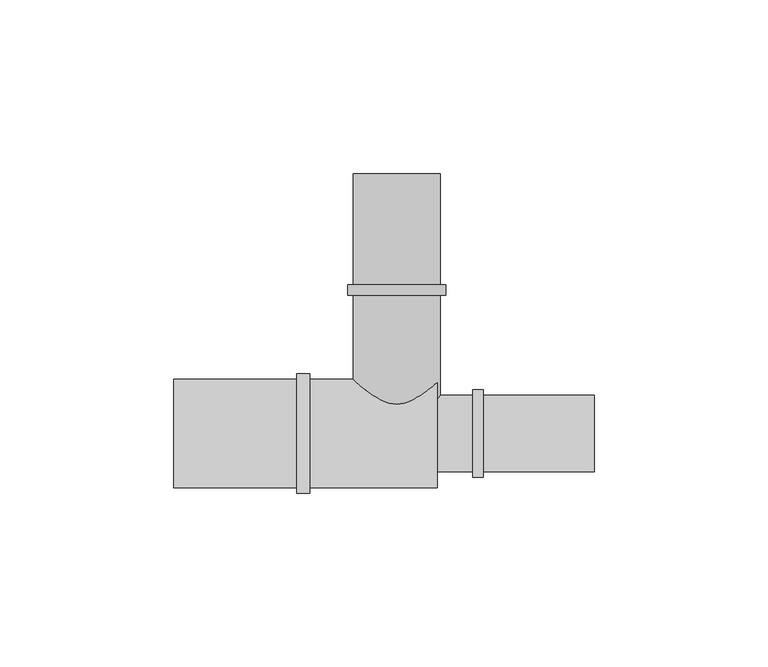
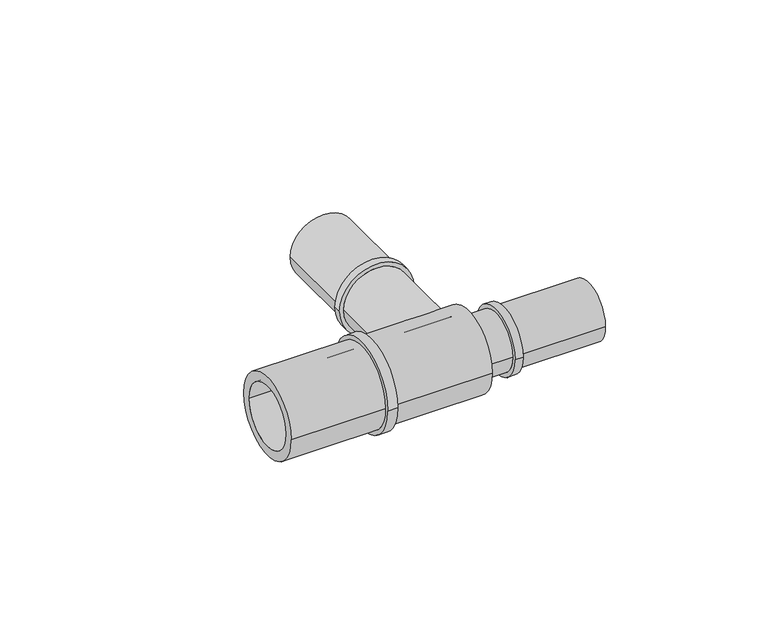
"""IFC4 building model written with IfcOpenShell, lengths in millimetres: pipe fitting geometry, FASTLOC_T-piece_LX : FSL T-Piece LX PL."""

from ifc_helpers import new_model, si_unit, frame, origin, place, context, project, spatial, polyline, circle_curve, source, transform, mapped, element, save
from ifc_brep_helpers import plane_surface, cylinder_surface, revolved_surface, advanced_brep


def pipe_fitting_08f3d266(model_context):
    return source(origin(), model_context, "Body", "AdvancedBrep", [
        advanced_brep(
        [(9.85, 74.8, 0.0), (-9.85, 74.8, 0.0), (-9.85, 0.0, 0.0), (9.85, 0.0, 0.0), (12.5, 0.0, 0.0), (-12.5, 0.0, 0.0), (-12.5, 39.8, 0.0), (12.5, 39.8, 0.0), (14.1, 39.8, 0.0), (-14.1, 39.8, 0.0), (-14.1, 42.8, 0.0), (14.1, 42.8, 0.0), (12.5, 42.8, 0.0), (-12.5, 42.8, 0.0), (-12.5, 74.8, 0.0), (12.5, 74.8, 0.0)],
        [
            (0, 1, circle_curve(frame((0.0, 74.8, 0.0), z_axis=(0.0, 1.0, 0.0), x_axis=(-1.0, 0.0, 0.0)), 9.85)),
            (1, 2),
            (2, 3, circle_curve(frame((0.0, 0.0, 0.0), z_axis=(0.0, -1.0, 0.0), x_axis=(-1.0, 0.0, 0.0)), 9.85)),
            (3, 0),
            (4, 5, circle_curve(frame((0.0, 0.0, 0.0), z_axis=(0.0, 1.0, 0.0), x_axis=(-1.0, 0.0, 0.0)), 12.5)),
            (5, 6),
            (6, 7, circle_curve(frame((0.0, 39.8, 0.0), z_axis=(0.0, -1.0, 0.0), x_axis=(-1.0, 0.0, 0.0)), 12.5)),
            (7, 4),
            (8, 9, circle_curve(frame((0.0, 39.8, 0.0), z_axis=(0.0, 1.0, 0.0), x_axis=(-1.0, 0.0, 0.0)), 14.1)),
            (9, 10),
            (10, 11, circle_curve(frame((0.0, 42.8, 0.0), z_axis=(0.0, -1.0, 0.0), x_axis=(-1.0, 0.0, 0.0)), 14.1)),
            (11, 8),
            (12, 13, circle_curve(frame((0.0, 42.8, 0.0), z_axis=(0.0, 1.0, 0.0), x_axis=(-1.0, 0.0, 0.0)), 12.5)),
            (13, 14),
            (14, 15, circle_curve(frame((0.0, 74.8, 0.0), z_axis=(0.0, -1.0, 0.0), x_axis=(-1.0, 0.0, 0.0)), 12.5)),
            (15, 12),
            (1, 0, circle_curve(frame((0.0, 74.8, 0.0), z_axis=(0.0, 1.0, 0.0), x_axis=(1.0, 0.0, 0.0)), 9.85)),
            (3, 2, circle_curve(frame((0.0, 0.0, 0.0), z_axis=(0.0, -1.0, 0.0), x_axis=(1.0, 0.0, 0.0)), 9.85)),
            (4, 5, circle_curve(frame((0.0, 0.0, 0.0), z_axis=(0.0, -1.0, 0.0), x_axis=(1.0, 0.0, 0.0)), 12.5)),
            (7, 6, circle_curve(frame((0.0, 39.8, 0.0), z_axis=(0.0, -1.0, 0.0), x_axis=(1.0, 0.0, 0.0)), 12.5)),
            (8, 9, circle_curve(frame((0.0, 39.8, 0.0), z_axis=(0.0, -1.0, 0.0), x_axis=(1.0, 0.0, 0.0)), 14.1)),
            (11, 10, circle_curve(frame((0.0, 42.8, 0.0), z_axis=(0.0, -1.0, 0.0), x_axis=(1.0, 0.0, 0.0)), 14.1)),
            (12, 13, circle_curve(frame((0.0, 42.8, 0.0), z_axis=(0.0, -1.0, 0.0), x_axis=(1.0, 0.0, 0.0)), 12.5)),
            (15, 14, circle_curve(frame((0.0, 74.8, 0.0), z_axis=(0.0, -1.0, 0.0), x_axis=(1.0, 0.0, 0.0)), 12.5)),
        ],
        [
            revolved_surface(polyline([(-9.85, 0.0, 0.0), (-9.85, 74.8, 0.0)]), (0.0, 0.0, 0.0), (0.0, -1.0, 0.0)),
            cylinder_surface(frame((0.0, 0.0, 0.0), z_axis=(0.0, -1.0, 0.0), x_axis=(-1.0, 0.0, 0.0)), 12.5),
            cylinder_surface(frame((0.0, 0.0, 0.0), z_axis=(0.0, -1.0, 0.0), x_axis=(-1.0, 0.0, 0.0)), 14.1),
            revolved_surface(polyline([(9.85, 0.0, 0.0), (9.85, 74.8, 0.0)]), (0.0, 0.0, 0.0), (0.0, -1.0, 0.0)),
            plane_surface(frame((0.0, 0.0, 0.0), z_axis=(0.0, -1.0, 0.0), x_axis=(1.0, 0.0, 0.0))),
            cylinder_surface(frame((0.0, 0.0, 0.0), z_axis=(0.0, -1.0, 0.0), x_axis=(1.0, 0.0, 0.0)), 12.5),
            plane_surface(frame((0.0, 39.8, 0.0), z_axis=(0.0, -1.0, 0.0), x_axis=(1.0, 0.0, 0.0))),
            cylinder_surface(frame((0.0, 0.0, 0.0), z_axis=(0.0, -1.0, 0.0), x_axis=(1.0, 0.0, 0.0)), 14.1),
            plane_surface(frame((0.0, 42.8, 0.0), z_axis=(0.0, 1.0, 0.0), x_axis=(1.0, 0.0, 0.0))),
            plane_surface(frame((0.0, 74.8, 0.0), z_axis=(0.0, 1.0, 0.0), x_axis=(1.0, 0.0, 0.0))),
        ],
        [
            (0, [[1, 2, 3, 4]]),
            (1, [[5, 6, 7, 8]]),
            (2, [[9, 10, 11, 12]]),
            (1, [[13, 14, 15, 16]]),
            (3, [[17, -4, 18, -2]]),
            (4, [[19, -5], [-18, -3]]),
            (5, [[-19, -8, 20, -6]]),
            (6, [[21, -9], [-20, -7]]),
            (7, [[-21, -12, 22, -10]]),
            (8, [[-22, -11], [23, -13]]),
            (5, [[-23, -16, 24, -14]]),
            (9, [[-24, -15], [-17, -1]]),
        ],
    ),
        advanced_brep(
        [(21.9, 11.0, 0.0), (21.9, -11.0, 0.0), (11.65, -11.0, 0.0), (11.65, 11.0, 0.0), (24.9, 12.6, 0.0), (24.9, -12.6, 0.0), (21.9, -12.6, 0.0), (21.9, 12.6, 0.0), (56.9, 11.0, 0.0), (56.9, -11.0, 0.0), (24.9, -11.0, 0.0), (24.9, 11.0, 0.0), (9.0, 8.35, 0.0), (9.0, -8.35, 0.0), (56.9, -8.35, 0.0), (56.9, 8.35, 0.0), (-64.2, 11.95, 0.0), (-64.2, -11.95, 0.0), (9.0, -11.95, 0.0), (9.0, 11.95, 0.0), (-28.7, 15.55, 0.0), (-28.7, -15.55, 0.0), (-64.2, -15.55, 0.0), (-64.2, 15.55, 0.0), (-25.0, 17.2, 0.0), (-25.0, -17.2, 0.0), (-28.7, -17.2, 0.0), (-28.7, 17.2, 0.0), (11.65, 15.55, 0.0), (11.65, -15.55, 0.0), (-25.0, -15.55, 0.0), (-25.0, 15.55, 0.0)],
        [
            (0, 1, circle_curve(frame((21.9, 0.0, 0.0), z_axis=(-1.0, 0.0, 0.0), x_axis=(0.0, -1.0, 0.0)), 11.0)),
            (1, 2),
            (2, 3, circle_curve(frame((11.65, 0.0, 0.0), z_axis=(1.0, 0.0, 0.0), x_axis=(0.0, -1.0, 0.0)), 11.0)),
            (3, 0),
            (4, 5, circle_curve(frame((24.9, 0.0, 0.0), z_axis=(-1.0, 0.0, 0.0), x_axis=(0.0, -1.0, 0.0)), 12.6)),
            (5, 6),
            (6, 7, circle_curve(frame((21.9, 0.0, 0.0), z_axis=(1.0, 0.0, 0.0), x_axis=(0.0, -1.0, 0.0)), 12.6)),
            (7, 4),
            (8, 9, circle_curve(frame((56.9, 0.0, 0.0), z_axis=(-1.0, 0.0, 0.0), x_axis=(0.0, -1.0, 0.0)), 11.0)),
            (9, 10),
            (10, 11, circle_curve(frame((24.9, 0.0, 0.0), z_axis=(1.0, 0.0, 0.0), x_axis=(0.0, -1.0, 0.0)), 11.0)),
            (11, 8),
            (12, 13, circle_curve(frame((9.0, 0.0, 0.0), z_axis=(-1.0, 0.0, 0.0), x_axis=(0.0, -1.0, 0.0)), 8.35)),
            (13, 14),
            (14, 15, circle_curve(frame((56.9, 0.0, 0.0), z_axis=(1.0, 0.0, 0.0), x_axis=(0.0, -1.0, 0.0)), 8.35)),
            (15, 12),
            (16, 17, circle_curve(frame((-64.2, 0.0, 0.0), z_axis=(-1.0, 0.0, 0.0), x_axis=(0.0, -1.0, 0.0)), 11.95)),
            (17, 18),
            (18, 19, circle_curve(frame((9.0, 0.0, 0.0), z_axis=(1.0, 0.0, 0.0), x_axis=(0.0, -1.0, 0.0)), 11.95)),
            (19, 16),
            (20, 21, circle_curve(frame((-28.7, 0.0, 0.0), z_axis=(-1.0, 0.0, 0.0), x_axis=(0.0, -1.0, 0.0)), 15.55)),
            (21, 22),
            (22, 23, circle_curve(frame((-64.2, 0.0, 0.0), z_axis=(1.0, 0.0, 0.0), x_axis=(0.0, -1.0, 0.0)), 15.55)),
            (23, 20),
            (24, 25, circle_curve(frame((-25.0, 0.0, 0.0), z_axis=(-1.0, 0.0, 0.0), x_axis=(0.0, -1.0, 0.0)), 17.2)),
            (25, 26),
            (26, 27, circle_curve(frame((-28.7, 0.0, 0.0), z_axis=(1.0, 0.0, 0.0), x_axis=(0.0, -1.0, 0.0)), 17.2)),
            (27, 24),
            (28, 29, circle_curve(frame((11.65, 0.0, 0.0), z_axis=(-1.0, 0.0, 0.0), x_axis=(0.0, -1.0, 0.0)), 15.55)),
            (29, 30),
            (30, 31, circle_curve(frame((-25.0, 0.0, 0.0), z_axis=(1.0, 0.0, 0.0), x_axis=(0.0, -1.0, 0.0)), 15.55)),
            (31, 28),
            (28, 29, circle_curve(frame((11.65, 0.0, 0.0), z_axis=(1.0, 0.0, 0.0), x_axis=(0.0, 1.0, 0.0)), 15.55)),
            (2, 3, circle_curve(frame((11.65, 0.0, 0.0), z_axis=(-1.0, 0.0, 0.0), x_axis=(0.0, 1.0, 0.0)), 11.0)),
            (1, 0, circle_curve(frame((21.9, 0.0, 0.0), z_axis=(-1.0, 0.0, 0.0), x_axis=(0.0, 1.0, 0.0)), 11.0)),
            (6, 7, circle_curve(frame((21.9, 0.0, 0.0), z_axis=(-1.0, 0.0, 0.0), x_axis=(0.0, 1.0, 0.0)), 12.6)),
            (5, 4, circle_curve(frame((24.9, 0.0, 0.0), z_axis=(-1.0, 0.0, 0.0), x_axis=(0.0, 1.0, 0.0)), 12.6)),
            (10, 11, circle_curve(frame((24.9, 0.0, 0.0), z_axis=(-1.0, 0.0, 0.0), x_axis=(0.0, 1.0, 0.0)), 11.0)),
            (9, 8, circle_curve(frame((56.9, 0.0, 0.0), z_axis=(-1.0, 0.0, 0.0), x_axis=(0.0, 1.0, 0.0)), 11.0)),
            (14, 15, circle_curve(frame((56.9, 0.0, 0.0), z_axis=(-1.0, 0.0, 0.0), x_axis=(0.0, 1.0, 0.0)), 8.35)),
            (13, 12, circle_curve(frame((9.0, 0.0, 0.0), z_axis=(-1.0, 0.0, 0.0), x_axis=(0.0, 1.0, 0.0)), 8.35)),
            (18, 19, circle_curve(frame((9.0, 0.0, 0.0), z_axis=(-1.0, 0.0, 0.0), x_axis=(0.0, 1.0, 0.0)), 11.95)),
            (17, 16, circle_curve(frame((-64.2, 0.0, 0.0), z_axis=(-1.0, 0.0, 0.0), x_axis=(0.0, 1.0, 0.0)), 11.95)),
            (22, 23, circle_curve(frame((-64.2, 0.0, 0.0), z_axis=(-1.0, 0.0, 0.0), x_axis=(0.0, 1.0, 0.0)), 15.55)),
            (21, 20, circle_curve(frame((-28.7, 0.0, 0.0), z_axis=(-1.0, 0.0, 0.0), x_axis=(0.0, 1.0, 0.0)), 15.55)),
            (26, 27, circle_curve(frame((-28.7, 0.0, 0.0), z_axis=(-1.0, 0.0, 0.0), x_axis=(0.0, 1.0, 0.0)), 17.2)),
            (25, 24, circle_curve(frame((-25.0, 0.0, 0.0), z_axis=(-1.0, 0.0, 0.0), x_axis=(0.0, 1.0, 0.0)), 17.2)),
            (30, 31, circle_curve(frame((-25.0, 0.0, 0.0), z_axis=(-1.0, 0.0, 0.0), x_axis=(0.0, 1.0, 0.0)), 15.55)),
        ],
        [
            cylinder_surface(frame((0.0, 0.0, 0.0), z_axis=(1.0, 0.0, 0.0), x_axis=(0.0, -1.0, 0.0)), 11.0),
            cylinder_surface(frame((0.0, 0.0, 0.0), z_axis=(1.0, 0.0, 0.0), x_axis=(0.0, -1.0, 0.0)), 12.6),
            revolved_surface(polyline([(56.9, -8.35, 0.0), (9.0, -8.35, 0.0)]), (0.0, 0.0, 0.0), (1.0, 0.0, 0.0)),
            revolved_surface(polyline([(9.0, -11.95, 0.0), (-64.2, -11.95, 0.0)]), (0.0, 0.0, 0.0), (1.0, 0.0, 0.0)),
            cylinder_surface(frame((0.0, 0.0, 0.0), z_axis=(1.0, 0.0, 0.0), x_axis=(0.0, -1.0, 0.0)), 15.55),
            cylinder_surface(frame((0.0, 0.0, 0.0), z_axis=(1.0, 0.0, 0.0), x_axis=(0.0, -1.0, 0.0)), 17.2),
            plane_surface(frame((11.65, 0.0, 0.0), z_axis=(1.0, 0.0, 0.0), x_axis=(0.0, 1.0, 0.0))),
            cylinder_surface(frame((0.0, 0.0, 0.0), z_axis=(1.0, 0.0, 0.0), x_axis=(0.0, 1.0, 0.0)), 11.0),
            plane_surface(frame((21.9, 0.0, 0.0), z_axis=(-1.0, 0.0, 0.0), x_axis=(0.0, 1.0, 0.0))),
            cylinder_surface(frame((0.0, 0.0, 0.0), z_axis=(1.0, 0.0, 0.0), x_axis=(0.0, 1.0, 0.0)), 12.6),
            plane_surface(frame((24.9, 0.0, 0.0), z_axis=(1.0, 0.0, 0.0), x_axis=(0.0, 1.0, 0.0))),
            plane_surface(frame((56.9, 0.0, 0.0), z_axis=(1.0, 0.0, 0.0), x_axis=(0.0, 1.0, 0.0))),
            revolved_surface(polyline([(56.9, 8.35, 0.0), (9.0, 8.35, 0.0)]), (0.0, 0.0, 0.0), (1.0, 0.0, 0.0)),
            plane_surface(frame((9.0, 0.0, 0.0), z_axis=(-1.0, 0.0, 0.0), x_axis=(0.0, 1.0, 0.0))),
            revolved_surface(polyline([(9.0, 11.95, 0.0), (-64.2, 11.95, 0.0)]), (0.0, 0.0, 0.0), (1.0, 0.0, 0.0)),
            plane_surface(frame((-64.2, 0.0, 0.0), z_axis=(-1.0, 0.0, 0.0), x_axis=(0.0, 1.0, 0.0))),
            cylinder_surface(frame((0.0, 0.0, 0.0), z_axis=(1.0, 0.0, 0.0), x_axis=(0.0, 1.0, 0.0)), 15.55),
            plane_surface(frame((-28.7, 0.0, 0.0), z_axis=(-1.0, 0.0, 0.0), x_axis=(0.0, 1.0, 0.0))),
            cylinder_surface(frame((0.0, 0.0, 0.0), z_axis=(1.0, 0.0, 0.0), x_axis=(0.0, 1.0, 0.0)), 17.2),
            plane_surface(frame((-25.0, 0.0, 0.0), z_axis=(1.0, 0.0, 0.0), x_axis=(0.0, 1.0, 0.0))),
        ],
        [
            (0, [[1, 2, 3, 4]]),
            (1, [[5, 6, 7, 8]]),
            (0, [[9, 10, 11, 12]]),
            (2, [[13, 14, 15, 16]]),
            (3, [[17, 18, 19, 20]]),
            (4, [[21, 22, 23, 24]]),
            (5, [[25, 26, 27, 28]]),
            (4, [[29, 30, 31, 32]]),
            (6, [[33, -29], [34, -3]]),
            (7, [[35, -4, -34, -2]]),
            (8, [[36, -7], [-35, -1]]),
            (9, [[37, -8, -36, -6]]),
            (10, [[-37, -5], [38, -11]]),
            (7, [[39, -12, -38, -10]]),
            (11, [[-39, -9], [40, -15]]),
            (12, [[41, -16, -40, -14]]),
            (13, [[42, -19], [-41, -13]]),
            (14, [[43, -20, -42, -18]]),
            (15, [[44, -23], [-43, -17]]),
            (16, [[45, -24, -44, -22]]),
            (17, [[46, -27], [-45, -21]]),
            (18, [[47, -28, -46, -26]]),
            (19, [[-47, -25], [48, -31]]),
            (16, [[-33, -32, -48, -30]]),
        ],
    ),
    ])


if __name__ == "__main__":
    model = new_model("IFC4")
    model_context = context("Model", 3, world=origin())
    ifc_project = project(units=[si_unit("LENGTHUNIT", "METRE", prefix="MILLI")], contexts=[model_context])
    site = spatial("IfcSite", under=ifc_project)
    building = spatial("IfcBuilding", under=site)
    placement = place(None, origin())
    pipe_fitting_shape = pipe_fitting_08f3d266(model_context)
    element("IfcPipeFitting", 1, ObjectType="FASTLOC_T-piece_LX : FSL T-Piece LX PL", at=placement, inside=building, context=model_context, shape_type="MappedRepresentation", body=[
        mapped(pipe_fitting_shape, transform((0.0, 0.0, 0.0), x_axis=(1.0, 0.0, 0.0), y_axis=(0.0, 1.0, 0.0), z_axis=(0.0, 0.0, 1.0))),
    ])
    save(model, "model.ifc")
